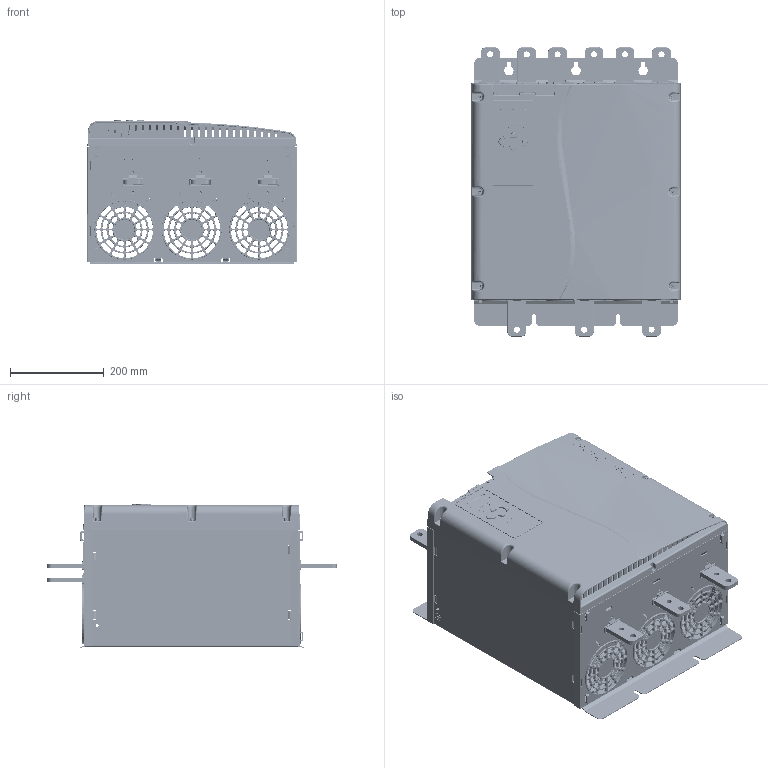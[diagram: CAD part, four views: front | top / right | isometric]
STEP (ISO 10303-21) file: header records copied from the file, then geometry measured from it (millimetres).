
FILE_DESCRIPTION (( 'STEP AP203' ), '1' );
FILE_NAME ('S3 Enclosure External Bypass 08-04-2020.STEP', '2020-04-08T02:11:32', ( '' ), ( '' ), 'SwSTEP 2.0', 'SolidWorks 2019', '' );
FILE_SCHEMA (( 'CONFIG_CONTROL_DESIGN' ));
Length unit declared in the file: millimetre
Products named in the file (26): 633-15475-00; PEM self-clinching nuts_M5x0.8 t=1.4 S or CLS; PEM self-clinching nuts_M8x1.25 t=1.4 S or CLS; 991-17216-00_Danfoss; 633-15299-00; 300-07409-00; GA 1.38 (Final Design)_External ByPassed; 633-16066-00; PEM SO Standoffs_M5x14 THTS; 340-21334-001; 633-21279-00; 633-17037-00; 633-21289-00_Aucom (633-21289-00); 621-20855-00; 633-21280-00_External  Bypass; S3 Enclosure External Bypass 08-04-2020; 633-21281-00_Aucom 633-21281-00; Aucom label_TradeMark Removed; 621-20853-00; 633-21275-00; 624-21286-00; Hexagon Head Pozidriv SEM_M5x16; 300-07410-00
Assembly tree (58 placements, depth 3):
  S3 Enclosure External Bypass 08-04-2020
    624-21286-00
      624-21286-00
      PEM self-clinching nuts_M5x0.8 t=1.4 S or CLS  x10
      PEM SO Standoffs_M5x14 THTS  x12
      PEM self-clinching nuts_M8x1.25 t=1.4 S or CLS  x2
    GA 1.38 (Final Design)_External ByPassed
      621-20853-00  x2
      621-20855-00
    GA 1.38 (Final Design)_External ByPassed
      621-20853-00  x2
      621-20855-00
    GA 1.38 (Final Design)_External ByPassed
      621-20853-00  x2
      621-20855-00
    633-21279-00
    633-21280-00_External  Bypass
    340-21334-001
    991-17216-00_Danfoss
      300-07409-00
      300-07410-00
      633-17037-00
    633-16066-00
    633-15475-00
    633-21289-00_Aucom (633-21289-00)
      633-21281-00_Aucom 633-21281-00
      633-15299-00
    Hexagon Head Pozidriv SEM_M5x16  x6
    633-21275-00
    Aucom label_TradeMark Removed
Bounding box: 447.06 x 618 x 309.73 mm (x, y, z)
Volume: 3705666 mm3; surface area: 2801791.1 mm2
Topology: 73 solids, 73 shells, 24820 faces, 62188 edges, 38239 vertices
Faces by surface type: plane 8662, cylinder 4898, bspline 4718, cone 3784, torus 2346, sphere 412
Entity records: 890335 total; most frequent: CARTESIAN_POINT 358891, ORIENTED_EDGE 118084, DIRECTION 99765, EDGE_CURVE 59042, VERTEX_POINT 36414, AXIS2_PLACEMENT_3D 35484, LINE 28797, VECTOR 28797
